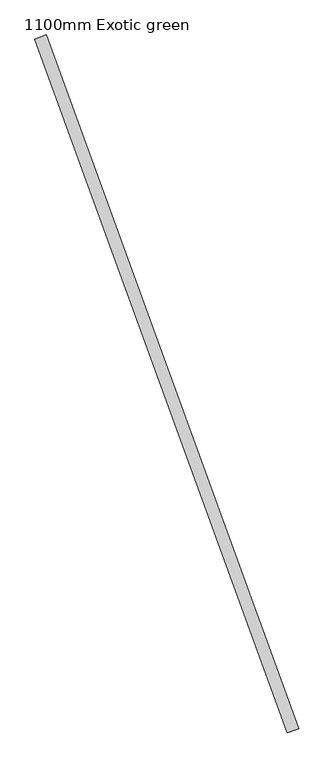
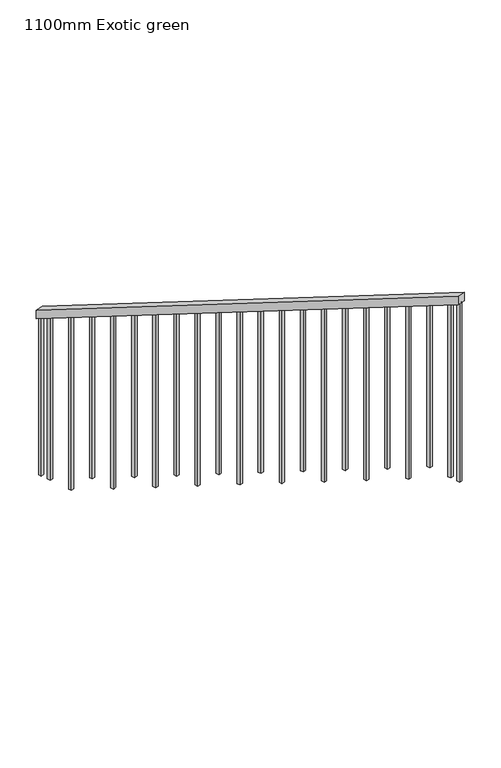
"""IFC4 building model written with IfcOpenShell, lengths in millimetres: railing geometry, 1100mm Exotic green."""

from ifc_helpers import new_model, si_unit, frame, origin, place, context, project, spatial, polyline, outline, extrude, source, transform, mapped, element, save


def railing_1100mm_exotic_green_49e656fd(model_context):
    return source(origin(), model_context, "Body", "SweptSolid", [
        extrude(outline(polyline([(24.0476171, -50.0), (0.0, 0.0), (3328.9392309, 0.0), (3352.986848, -50.0), (24.0476171, -50.0)])), frame((35584.2037606, 11983.4199548, 8788.8033938), z_axis=(0.939827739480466, 0.3416486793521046, 0.0), x_axis=(0.3078896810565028, -0.8469614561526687, 0.4334284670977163)), (0.0, 0.0, 1.0), 50.0),
        extrude(outline(polyline([(104.8095235, 0.0), (1258.2142771, 0.0), (1258.2142771, -19.9999999), (95.1904766, -19.9999999), (104.8095235, 0.0)])), frame((36594.207077, 9248.9468244, 10301.07142), z_axis=(0.9398277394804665, 0.341648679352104, 0.0), x_axis=(0.0, 0.0, -1.0)), (0.0, 0.0, 1.0), 20.0),
        extrude(outline(polyline([(104.8095235, 0.0), (1186.0714257, 0.0), (1186.0714257, -20.0), (95.1904766, -20.0), (104.8095235, 0.0)])), frame((36542.9597751, 9389.9209854, 10228.9285686), z_axis=(0.9398277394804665, 0.341648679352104, 0.0), x_axis=(0.0, 0.0, -1.0)), (0.0, 0.0, 1.0), 20.0),
        extrude(outline(polyline([(104.8095235, 0.0), (1258.2142771, 0.0), (1258.2142771, -20.0), (95.1904766, -20.0), (104.8095235, 0.0)])), frame((36491.7124732, 9530.8951463, 10156.7857057), z_axis=(0.9398277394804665, 0.341648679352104, 0.0), x_axis=(0.0, 0.0, -1.0)), (0.0, 0.0, 1.0), 20.0),
        extrude(outline(polyline([(104.8095235, 0.0), (1186.0714257, 0.0), (1186.0714257, -20.0), (95.1904766, -20.0), (104.8095235, 0.0)])), frame((36440.4651713, 9671.8693072, 10084.6428543), z_axis=(0.9398277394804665, 0.341648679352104, 0.0), x_axis=(0.0, 0.0, -1.0)), (0.0, 0.0, 1.0), 20.0),
        extrude(outline(polyline([(104.8095234, 0.0), (1258.2142771, 0.0), (1258.2142771, -20.0), (95.1904766, -20.0), (104.8095234, 0.0)])), frame((36389.2178694, 9812.8434681, 10012.4999914), z_axis=(0.9398277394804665, 0.341648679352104, 0.0), x_axis=(0.0, 0.0, -1.0)), (0.0, 0.0, 1.0), 20.0),
        extrude(outline(polyline([(104.8095234, 0.0), (1186.0714257, 0.0), (1186.0714257, -20.0), (95.1904766, -20.0), (104.8095234, 0.0)])), frame((36337.9705675, 9953.8176291, 9940.35714), z_axis=(0.9398277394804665, 0.341648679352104, 0.0), x_axis=(0.0, 0.0, -1.0)), (0.0, 0.0, 1.0), 20.0),
        extrude(outline(polyline([(104.8095234, 0.0), (1258.2142771, 0.0), (1258.2142771, -20.0), (95.1904766, -20.0), (104.8095234, 0.0)])), frame((36286.7232656, 10094.79179, 9868.2142771), z_axis=(0.9398277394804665, 0.341648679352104, 0.0), x_axis=(0.0, 0.0, -1.0)), (0.0, 0.0, 1.0), 20.0),
        extrude(outline(polyline([(104.8095234, 0.0), (1186.0714257, 0.0), (1186.0714257, -20.0), (95.1904766, -20.0), (104.8095234, 0.0)])), frame((36235.4759637, 10235.7659509, 9796.0714257), z_axis=(0.9398277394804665, 0.341648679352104, 0.0), x_axis=(0.0, 0.0, -1.0)), (0.0, 0.0, 1.0), 20.0),
        extrude(outline(polyline([(104.8095234, 0.0), (1258.2142771, 0.0), (1258.2142771, -20.0), (95.1904766, -20.0), (104.8095234, 0.0)])), frame((36184.2286618, 10376.7401118, 9723.9285628), z_axis=(0.9398277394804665, 0.341648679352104, 0.0), x_axis=(0.0, 0.0, -1.0)), (0.0, 0.0, 1.0), 20.0),
        extrude(outline(polyline([(104.8095234, 0.0), (1186.0714257, 0.0), (1186.0714257, -19.9999999), (95.1904766, -19.9999999), (104.8095234, 0.0)])), frame((36132.9813599, 10517.7142727, 9651.7857114), z_axis=(0.9398277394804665, 0.341648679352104, 0.0), x_axis=(0.0, 0.0, -1.0)), (0.0, 0.0, 1.0), 20.0),
        extrude(outline(polyline([(104.8095234, 0.0), (1258.2142771, 0.0), (1258.2142771, -20.0), (95.1904766, -20.0), (104.8095234, 0.0)])), frame((36081.734058, 10658.6884337, 9579.6428485), z_axis=(0.9398277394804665, 0.341648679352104, 0.0), x_axis=(0.0, 0.0, -1.0)), (0.0, 0.0, 1.0), 20.0),
        extrude(outline(polyline([(104.8095234, 0.0), (1186.0714257, 0.0), (1186.0714257, -20.0), (95.1904765, -20.0), (104.8095234, 0.0)])), frame((36030.4867561, 10799.6625946, 9507.4999971), z_axis=(0.9398277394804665, 0.341648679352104, 0.0), x_axis=(0.0, 0.0, -1.0)), (0.0, 0.0, 1.0), 20.0),
        extrude(outline(polyline([(104.8095234, 0.0), (1258.2142771, 0.0), (1258.2142771, -20.0), (95.1904765, -20.0), (104.8095234, 0.0)])), frame((35979.2394542, 10940.6367555, 9435.3571342), z_axis=(0.9398277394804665, 0.341648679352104, 0.0), x_axis=(0.0, 0.0, -1.0)), (0.0, 0.0, 1.0), 20.0),
        extrude(outline(polyline([(104.8095234, 0.0), (1186.0714257, 0.0), (1186.0714257, -20.0), (95.1904765, -20.0), (104.8095234, 0.0)])), frame((35927.9921523, 11081.6109164, 9363.2142828), z_axis=(0.9398277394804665, 0.341648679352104, 0.0), x_axis=(0.0, 0.0, -1.0)), (0.0, 0.0, 1.0), 20.0),
        extrude(outline(polyline([(104.8095235, 0.0), (1258.2142771, 0.0), (1258.2142771, -20.0), (95.1904766, -20.0), (104.8095235, 0.0)])), frame((35876.7448504, 11222.5850774, 9291.07142), z_axis=(0.9398277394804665, 0.341648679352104, 0.0), x_axis=(0.0, 0.0, -1.0)), (0.0, 0.0, 1.0), 20.0),
        extrude(outline(polyline([(104.8095235, 0.0), (1186.0714257, 0.0), (1186.0714257, -20.0), (95.1904766, -20.0), (104.8095235, 0.0)])), frame((35825.4975485, 11363.5592383, 9218.9285686), z_axis=(0.9398277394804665, 0.341648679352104, 0.0), x_axis=(0.0, 0.0, -1.0)), (0.0, 0.0, 1.0), 20.0),
        extrude(outline(polyline([(104.8095235, 0.0), (1258.2142771, 0.0), (1258.2142771, -20.0), (95.1904766, -20.0), (104.8095235, 0.0)])), frame((35774.2502466, 11504.5333992, 9146.7857057), z_axis=(0.9398277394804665, 0.341648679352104, 0.0), x_axis=(0.0, 0.0, -1.0)), (0.0, 0.0, 1.0), 20.0),
        extrude(outline(polyline([(104.8095235, 0.0), (1186.0714257, 0.0), (1186.0714257, -20.0), (95.1904766, -20.0), (104.8095235, 0.0)])), frame((35723.0029447, 11645.5075601, 9074.6428543), z_axis=(0.9398277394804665, 0.341648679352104, 0.0), x_axis=(0.0, 0.0, -1.0)), (0.0, 0.0, 1.0), 20.0),
        extrude(outline(polyline([(104.8095234, 0.0), (1258.2142771, 0.0), (1258.2142771, -19.9999999), (95.1904766, -19.9999999), (104.8095234, 0.0)])), frame((35671.7556428, 11786.481721, 9002.4999914), z_axis=(0.9398277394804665, 0.341648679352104, 0.0), x_axis=(0.0, 0.0, -1.0)), (0.0, 0.0, 1.0), 20.0),
        extrude(outline(polyline([(104.8095234, 0.0), (1186.0714257, 0.0), (1186.0714257, -20.0), (95.1904766, -20.0), (104.8095234, 0.0)])), frame((35620.5083409, 11927.455882, 8930.35714), z_axis=(0.9398277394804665, 0.341648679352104, 0.0), x_axis=(0.0, 0.0, -1.0)), (0.0, 0.0, 1.0), 20.0),
        extrude(outline(polyline([(104.8095234, 0.0), (1288.273695, 0.0), (1288.273695, -20.0), (95.1904766, -20.0), (104.8095234, 0.0)])), frame((36615.5601195, 9190.2075907, 10331.1308379), z_axis=(0.9398277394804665, 0.341648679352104, 0.0), x_axis=(0.0, 0.0, -1.0)), (0.0, 0.0, 1.0), 20.0),
        extrude(outline(polyline([(104.8095235, 0.0), (1156.0119043, 0.0), (1156.0119043, -20.0), (95.1904766, -20.0), (104.8095235, 0.0)])), frame((35599.1552984, 11986.1951157, 8900.2976186), z_axis=(0.9398277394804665, 0.341648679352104, 0.0), x_axis=(0.0, 0.0, -1.0)), (0.0, 0.0, 1.0), 20.0),
    ])


if __name__ == "__main__":
    model = new_model("IFC4")
    model_context = context("Model", 3, world=origin())
    ifc_project = project(units=[si_unit("LENGTHUNIT", "METRE", prefix="MILLI")], contexts=[model_context])
    site = spatial("IfcSite", under=ifc_project)
    building = spatial("IfcBuilding", under=site)
    placement = place(None, origin())
    railing_1100mm_exotic_green_shape = railing_1100mm_exotic_green_49e656fd(model_context)
    element("IfcRailing", 1, ObjectType="1100mm Exotic green", at=placement, inside=building, context=model_context, shape_type="MappedRepresentation", body=[
        mapped(railing_1100mm_exotic_green_shape, transform((0.0, 0.0, 0.0), x_axis=(1.0, 0.0, 0.0), y_axis=(0.0, 1.0, 0.0), z_axis=(0.0, 0.0, 1.0))),
    ])
    save(model, "model.ifc")
